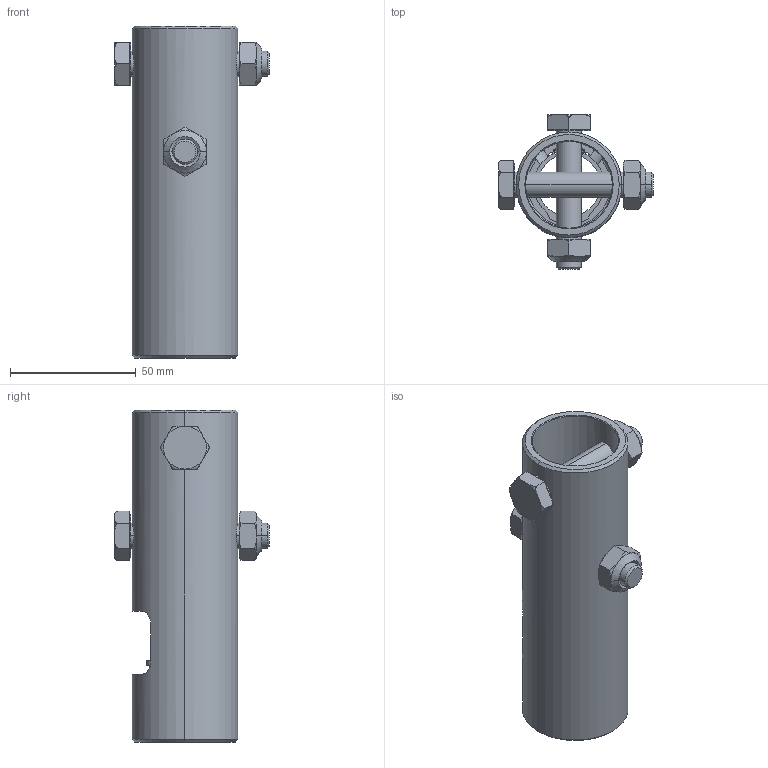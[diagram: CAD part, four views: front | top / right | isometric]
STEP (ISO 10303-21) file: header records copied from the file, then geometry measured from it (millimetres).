
FILE_DESCRIPTION (( 'STEP AP214' ), '1' );
FILE_NAME ('BKS_45.6634_20745.6621.3430_STEP_20150213.STEP', '2015-02-13T12:32:26', ( '' ), ( '' ), 'SwSTEP 2.0', 'SolidWorks 2013', '' );
FILE_SCHEMA (( 'AUTOMOTIVE_DESIGN' ));
Length unit declared in the file: millimetre
Products named in the file (1): BKS_45.6634_20745.6621.3430_STEP_20150213
Bounding box: 61.4 x 61.4 x 132 mm (x, y, z)
Volume: 80022.5 mm3; surface area: 39065.9 mm2
Topology: 6 solids, 6 shells, 184 faces, 447 edges, 270 vertices
Faces by surface type: plane 67, cylinder 54, cone 48, torus 15
Entity records: 8707 total; most frequent: CARTESIAN_POINT 2380, ORIENTED_EDGE 894, DIRECTION 860, EDGE_CURVE 447, AXIS2_PLACEMENT_3D 342, VERTEX_POINT 270, EDGE_LOOP 199, UNCERTAINTY_MEASURE_WITH_UNIT 192
